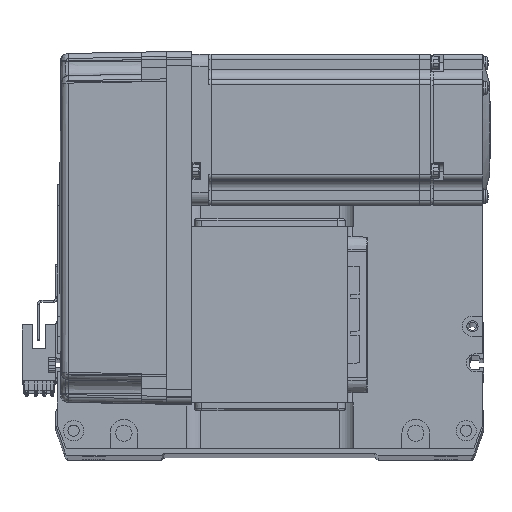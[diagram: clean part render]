
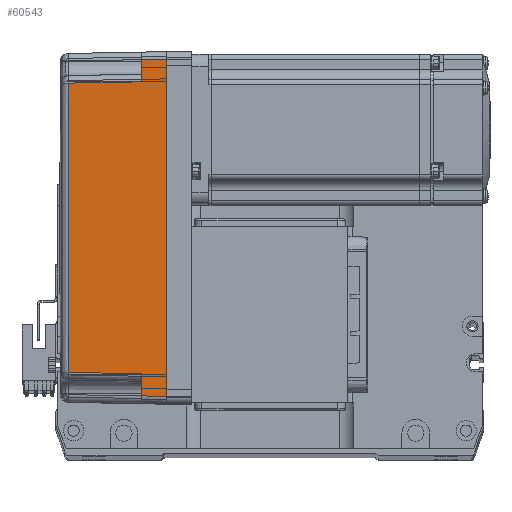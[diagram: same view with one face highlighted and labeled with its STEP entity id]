
A CAD part, top view. The second image highlights one B-rep face of the part: STEP entity #60543.
In plain terms, the highlighted planar face has unit normal (-0.018, 0, 1) as drawn and (0, 1, 0.017) by its records, which use the part's own axes.
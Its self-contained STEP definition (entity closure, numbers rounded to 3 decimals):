
#1009 = LINE ( 'NONE', #28077, #39798 ) ;
#1211 = CARTESIAN_POINT ( 'NONE',  ( -19.165, 35.316, 39.181 ) ) ;
#2941 = DIRECTION ( 'NONE',  ( 1., 0., 0. ) ) ;
#3998 = ORIENTED_EDGE ( 'NONE', *, *, #9766, .T. ) ;
#6631 = VECTOR ( 'NONE', #33937, 1000. ) ;
#7972 = ORIENTED_EDGE ( 'NONE', *, *, #15335, .F. ) ;
#8965 = DIRECTION ( 'NONE',  ( 0.017, -0.017, 1. ) ) ;
#9270 = CARTESIAN_POINT ( 'NONE',  ( -58., 35.825, 10. ) ) ;
#9766 = EDGE_CURVE ( 'NONE', #48320, #30478, #54333, .T. ) ;
#10357 = CARTESIAN_POINT ( 'NONE',  ( 19.165, 35.316, 39.181 ) ) ;
#10532 = EDGE_CURVE ( 'NONE', #49573, #15394, #1009, .T. ) ;
#10568 = CARTESIAN_POINT ( 'NONE',  ( -57.495, 35.32, 38.985 ) ) ;
#12121 = CARTESIAN_POINT ( 'NONE',  ( 66.826, 35.825, 10. ) ) ;
#12909 = LINE ( 'NONE', #46560, #50896 ) ;
#12954 = EDGE_LOOP ( 'NONE', ( #40685, #15645, #46705, #43453, #3998, #39792, #7972, #50434 ) ) ;
#13415 = LINE ( 'NONE', #19093, #6631 ) ;
#13510 = EDGE_CURVE ( 'NONE', #27808, #30407, #22617, .T. ) ;
#14782 = EDGE_CURVE ( 'NONE', #49573, #19868, #39406, .T. ) ;
#15335 = EDGE_CURVE ( 'NONE', #15394, #61155, #13415, .T. ) ;
#15394 = VERTEX_POINT ( 'NONE', #45791 ) ;
#15505 = VECTOR ( 'NONE', #17553, 1000. ) ;
#15645 = ORIENTED_EDGE ( 'NONE', *, *, #22618, .T. ) ;
#17553 = DIRECTION ( 'NONE',  ( 0.017, 0.017, -1. ) ) ;
#17956 = AXIS2_PLACEMENT_3D ( 'NONE', #30452, #39888, #25398 ) ;
#18130 = DIRECTION ( 'NONE',  ( 1., 0., 0. ) ) ;
#18756 = VECTOR ( 'NONE', #2941, 1000. ) ;
#19093 = CARTESIAN_POINT ( 'NONE',  ( 67.001, 36.001, -0.052 ) ) ;
#19868 = VERTEX_POINT ( 'NONE', #25932 ) ;
#20797 = CARTESIAN_POINT ( 'NONE',  ( 70., 35.825, 10. ) ) ;
#22617 = LINE ( 'NONE', #9270, #27889 ) ;
#22618 = EDGE_CURVE ( 'NONE', #19868, #27808, #46790, .T. ) ;
#23521 = DIRECTION ( 'NONE',  ( 0.017, -0.017, 1. ) ) ;
#23652 = FACE_OUTER_BOUND ( 'NONE', #12954, .T. ) ;
#24892 = CARTESIAN_POINT ( 'NONE',  ( 57.495, 35.32, 38.985 ) ) ;
#25398 = DIRECTION ( 'NONE',  ( 0., -0.017, 1. ) ) ;
#25932 = CARTESIAN_POINT ( 'NONE',  ( -66.826, 35.825, 10. ) ) ;
#26778 = CARTESIAN_POINT ( 'NONE',  ( -67., 36., 0. ) ) ;
#27808 = VERTEX_POINT ( 'NONE', #29594 ) ;
#27889 = VECTOR ( 'NONE', #23521, 1000. ) ;
#28077 = CARTESIAN_POINT ( 'NONE',  ( 0., 36., 0. ) ) ;
#29594 = CARTESIAN_POINT ( 'NONE',  ( -58., 35.825, 10. ) ) ;
#30407 = VERTEX_POINT ( 'NONE', #10568 ) ;
#30452 = CARTESIAN_POINT ( 'NONE',  ( 70., 36., 0. ) ) ;
#30478 = VERTEX_POINT ( 'NONE', #30479 ) ;
#30479 = CARTESIAN_POINT ( 'NONE',  ( 58., 35.825, 10. ) ) ;
#33937 = DIRECTION ( 'NONE',  ( -0.017, -0.017, 1. ) ) ;
#36360 = EDGE_CURVE ( 'NONE', #30407, #48320, #39592, .T. ) ;
#38901 = CARTESIAN_POINT ( 'NONE',  ( -67., 36., 0. ) ) ;
#39406 = LINE ( 'NONE', #38901, #47712 ) ;
#39592 = B_SPLINE_CURVE_WITH_KNOTS ( 'NONE', 3,
 ( #59423, #1211, #10357, #39664 ),
 .UNSPECIFIED., .F., .F.,
 ( 4, 4 ),
 ( 0., 1. ),
 .UNSPECIFIED. ) ;
#39664 = CARTESIAN_POINT ( 'NONE',  ( 57.495, 35.32, 38.985 ) ) ;
#39792 = ORIENTED_EDGE ( 'NONE', *, *, #46369, .T. ) ;
#39798 = VECTOR ( 'NONE', #57483, 1000. ) ;
#39888 = DIRECTION ( 'NONE',  ( 0., 1., 0.017 ) ) ;
#40685 = ORIENTED_EDGE ( 'NONE', *, *, #14782, .T. ) ;
#40956 = CARTESIAN_POINT ( 'NONE',  ( 57.495, 35.32, 38.985 ) ) ;
#43453 = ORIENTED_EDGE ( 'NONE', *, *, #36360, .T. ) ;
#45791 = CARTESIAN_POINT ( 'NONE',  ( 67., 36., 0. ) ) ;
#46369 = EDGE_CURVE ( 'NONE', #30478, #61155, #12909, .T. ) ;
#46560 = CARTESIAN_POINT ( 'NONE',  ( 70., 35.825, 10. ) ) ;
#46705 = ORIENTED_EDGE ( 'NONE', *, *, #13510, .T. ) ;
#46790 = LINE ( 'NONE', #20797, #18756 ) ;
#47712 = VECTOR ( 'NONE', #8965, 1000. ) ;
#48320 = VERTEX_POINT ( 'NONE', #24892 ) ;
#49573 = VERTEX_POINT ( 'NONE', #26778 ) ;
#50434 = ORIENTED_EDGE ( 'NONE', *, *, #10532, .F. ) ;
#50896 = VECTOR ( 'NONE', #18130, 1000. ) ;
#54333 = LINE ( 'NONE', #40956, #15505 ) ;
#57483 = DIRECTION ( 'NONE',  ( 1., 0., 0. ) ) ;
#59423 = CARTESIAN_POINT ( 'NONE',  ( -57.495, 35.32, 38.985 ) ) ;
#59651 = PLANE ( 'NONE',  #17956 ) ;
#60543 = ADVANCED_FACE ( 'NONE', ( #23652 ), #59651, .T. ) ;
#61155 = VERTEX_POINT ( 'NONE', #12121 ) ;
